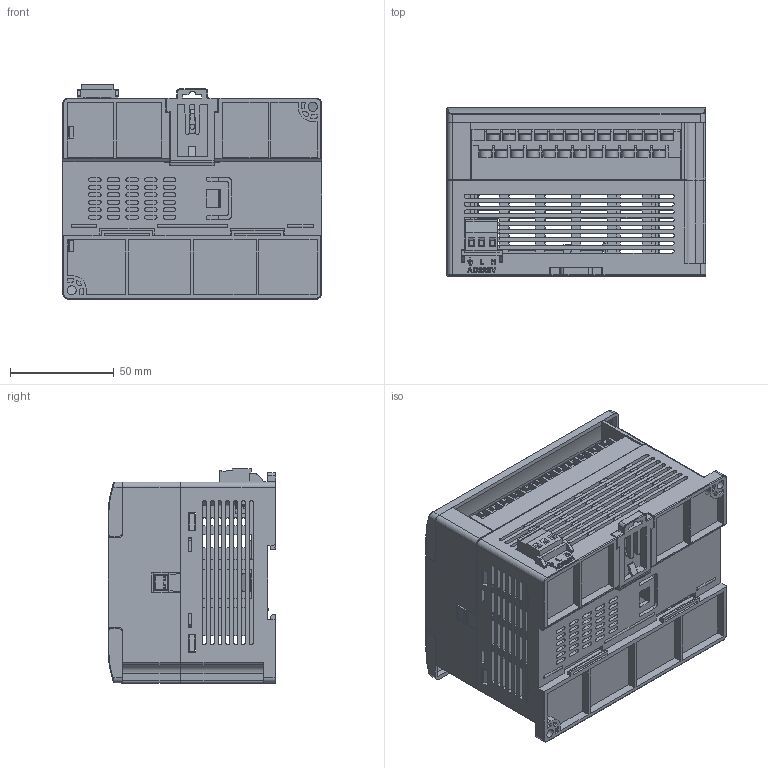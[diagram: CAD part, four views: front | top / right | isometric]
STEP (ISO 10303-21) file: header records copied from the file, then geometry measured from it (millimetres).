
FILE_DESCRIPTION((''),'2;1');
FILE_NAME('PLC-40IO-M2-ASM_ASM_ASM','2022-06-21T',('samkoon'),(''),'PRO/ENGINEER BY PARAMETRIC TECHNOLOGY CORPORATION, 2015240','PRO/ENGINEER BY PARAMETRIC TECHNOLOGY CORPORATION, 2015240','');
FILE_SCHEMA(('AUTOMOTIVE_DESIGN { 1 0 10303 214 1 1 1 1 }'));
Products named in the file (2): PLC-40IO-M2-ASM_ASM_ASM_1_ASM; PLC-40IO-M2-ASM_ASM_ASM
Assembly tree (1 placements, depth 2):
  PLC-40IO-M2-ASM_ASM_ASM
    PLC-40IO-M2-ASM_ASM_ASM_1_ASM
Bounding box: 125.05 x 81 x 103.3 mm (x, y, z)
Surface area: 240257.6 mm2 (no closed solid volume)
Topology: 0 solids, 71 shells, 7168 faces, 19912 edges, 13176 vertices
Faces by surface type: plane 6050, cylinder 822, torus 140, extrusion 63, cone 56, bspline 37
Entity records: 261350 total; most frequent: CARTESIAN_POINT 44524, ORIENTED_EDGE 39821, DIRECTION 35937, EDGE_CURVE 19912, VECTOR 17305, LINE 17242, VERTEX_POINT 13176, AXIS2_PLACEMENT_3D 9316
